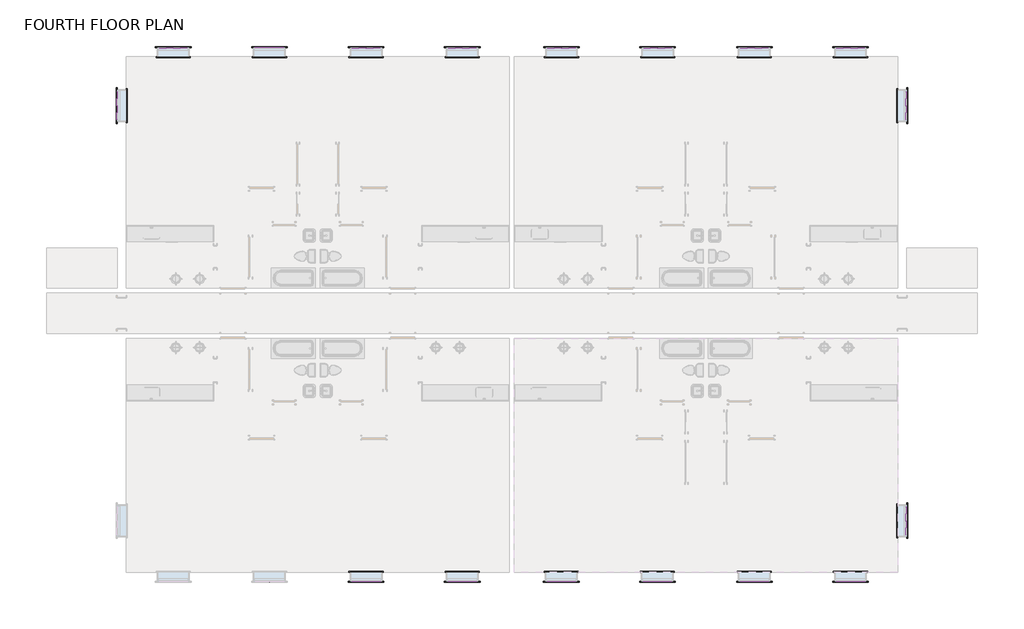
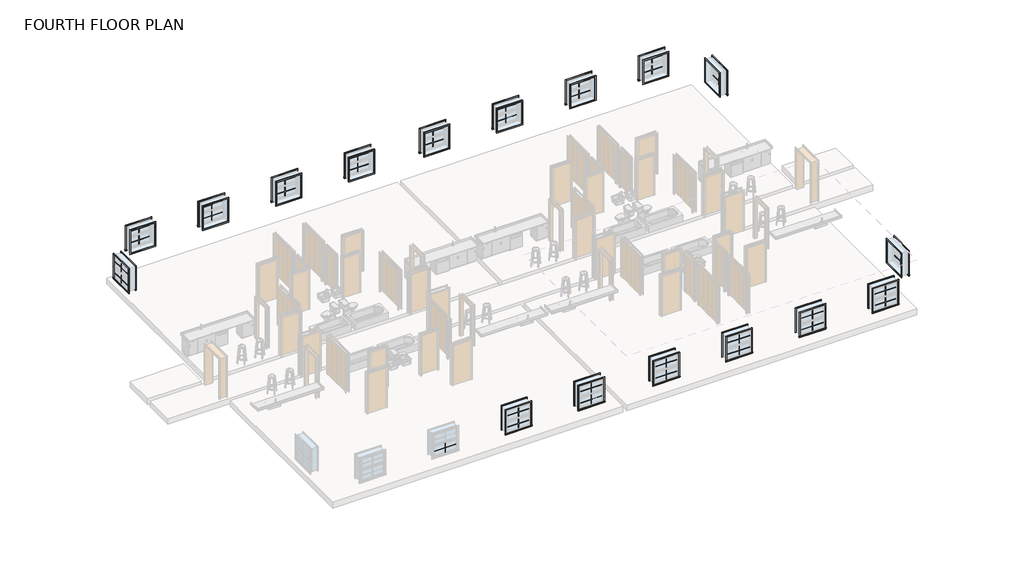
# One storey, part 3 of 3: 69 proxies.
"""IFC4 building model written with IfcOpenShell, lengths in millimetres."""

from ifc_helpers import new_model, si_unit, origin, place, context, project, spatial, transform, mapped, element, save
from components import muntin_pattern_2x2_muntin_pattern_2x2_c44f4804, muntin_pattern_2x2_muntin_pattern_2x2_05dfa543, muntin_pattern_2x2_muntin_pattern_2x2_770224b8, muntin_pattern_2x2_muntin_pattern_2x2_cf99dd86, trim_window_exterior_flat_with_sill_7cfdd449, trim_window_exterior_flat_with_sill_ac84ebb5, trim_window_interior_flat_picture_frame_f1e0b15b, trim_window_interior_flat_picture_frame_caf2db4f

model = new_model("IFC4")

# Units and contexts
model_context = context("Model", 3, world=origin())
ifc_project = project(units=[si_unit("LENGTHUNIT", "METRE", prefix="MILLI")], contexts=[model_context])

# Site, building, storey
site = spatial("IfcSite", under=ifc_project)
building = spatial("IfcBuilding", under=site)
storey = spatial("IfcBuildingStorey", under=building, Name="FOURTH FLOOR PLAN", Elevation=8534.4)

# Proxies
placement = place(None, origin())
muntin_pattern_2x2_muntin_pattern_2x2_shape = muntin_pattern_2x2_muntin_pattern_2x2_c44f4804(model_context)
element("IfcBuildingElementProxy", 1, Name="Muntin Pattern_2x2 : Muntin Pattern_2x2", ObjectType="Muntin Pattern_2x2 : Muntin Pattern_2x2", at=placement, inside=storey, context=model_context, shape_type="MappedRepresentation", body=[
    mapped(muntin_pattern_2x2_muntin_pattern_2x2_shape, transform((-5537.3665125, 13431.007194, 10128.25), x_axis=(0.0, 1.0, 0.0), y_axis=(-1.0, 0.0, 0.0), z_axis=(0.0, 0.0, 1.0))),
])
element("IfcBuildingElementProxy", 2, Name="Muntin Pattern_2x2 : Muntin Pattern_2x2", ObjectType="Muntin Pattern_2x2 : Muntin Pattern_2x2", at=placement, inside=storey, context=model_context, shape_type="MappedRepresentation", body=[
    mapped(muntin_pattern_2x2_muntin_pattern_2x2_shape, transform((-3399.0477625, 15644.6887881, 10128.25), x_axis=(1.0, 0.0, 0.0), y_axis=(0.0, 1.0, 0.0), z_axis=(0.0, 0.0, 1.0))),
])
element("IfcBuildingElementProxy", 3, Name="Muntin Pattern_2x2 : Muntin Pattern_2x2", ObjectType="Muntin Pattern_2x2 : Muntin Pattern_2x2", at=placement, inside=storey, context=model_context, shape_type="MappedRepresentation", body=[
    mapped(muntin_pattern_2x2_muntin_pattern_2x2_shape, transform((271.9647375, 15644.6887881, 10128.25), x_axis=(1.0, 0.0, 0.0), y_axis=(0.0, 1.0, 0.0), z_axis=(0.0, 0.0, 1.0))),
])
element("IfcBuildingElementProxy", 4, Name="Muntin Pattern_2x2 : Muntin Pattern_2x2", ObjectType="Muntin Pattern_2x2 : Muntin Pattern_2x2", at=placement, inside=storey, context=model_context, shape_type="MappedRepresentation", body=[
    mapped(muntin_pattern_2x2_muntin_pattern_2x2_shape, transform((7635.6647375, -4742.0612119, 10128.25), x_axis=(-1.0, 0.0, 0.0), y_axis=(0.0, -1.0, 0.0), z_axis=(0.0, 0.0, 1.0))),
])
element("IfcBuildingElementProxy", 5, Name="Muntin Pattern_2x2 : Muntin Pattern_2x2", ObjectType="Muntin Pattern_2x2 : Muntin Pattern_2x2", at=placement, inside=storey, context=model_context, shape_type="MappedRepresentation", body=[
    mapped(muntin_pattern_2x2_muntin_pattern_2x2_shape, transform((3964.6522375, -4742.0612119, 10128.25), x_axis=(-1.0, 0.0, 0.0), y_axis=(0.0, -1.0, 0.0), z_axis=(0.0, 0.0, 1.0))),
])
element("IfcBuildingElementProxy", 6, Name="Muntin Pattern_2x2 : Muntin Pattern_2x2", ObjectType="Muntin Pattern_2x2 : Muntin Pattern_2x2", at=placement, inside=storey, context=model_context, shape_type="MappedRepresentation", body=[
    mapped(muntin_pattern_2x2_muntin_pattern_2x2_shape, transform((24597.5834875, -2431.3796179, 10128.25), x_axis=(0.0, -1.0, 0.0), y_axis=(1.0, 0.0, 0.0), z_axis=(0.0, 0.0, 1.0))),
])
element("IfcBuildingElementProxy", 7, Name="Muntin Pattern_2x2 : Muntin Pattern_2x2", ObjectType="Muntin Pattern_2x2 : Muntin Pattern_2x2", at=placement, inside=storey, context=model_context, shape_type="MappedRepresentation", body=[
    mapped(muntin_pattern_2x2_muntin_pattern_2x2_shape, transform((22460.0647375, -4742.0612119, 10128.25), x_axis=(-1.0, 0.0, 0.0), y_axis=(0.0, -1.0, 0.0), z_axis=(0.0, 0.0, 1.0))),
])
element("IfcBuildingElementProxy", 8, Name="Muntin Pattern_2x2 : Muntin Pattern_2x2", ObjectType="Muntin Pattern_2x2 : Muntin Pattern_2x2", at=placement, inside=storey, context=model_context, shape_type="MappedRepresentation", body=[
    mapped(muntin_pattern_2x2_muntin_pattern_2x2_shape, transform((18789.0522375, -4742.0612119, 10128.25), x_axis=(-1.0, 0.0, 0.0), y_axis=(0.0, -1.0, 0.0), z_axis=(0.0, 0.0, 1.0))),
])
element("IfcBuildingElementProxy", 9, Name="Muntin Pattern_2x2 : Muntin Pattern_2x2", ObjectType="Muntin Pattern_2x2 : Muntin Pattern_2x2", at=placement, inside=storey, context=model_context, shape_type="MappedRepresentation", body=[
    mapped(muntin_pattern_2x2_muntin_pattern_2x2_shape, transform((11425.3522375, 15644.6887881, 10128.25), x_axis=(1.0, 0.0, 0.0), y_axis=(0.0, 1.0, 0.0), z_axis=(0.0, 0.0, 1.0))),
])
element("IfcBuildingElementProxy", 10, Name="Muntin Pattern_2x2 : Muntin Pattern_2x2", ObjectType="Muntin Pattern_2x2 : Muntin Pattern_2x2", at=placement, inside=storey, context=model_context, shape_type="MappedRepresentation", body=[
    mapped(muntin_pattern_2x2_muntin_pattern_2x2_shape, transform((15096.3647375, 15644.6887881, 10128.25), x_axis=(1.0, 0.0, 0.0), y_axis=(0.0, 1.0, 0.0), z_axis=(0.0, 0.0, 1.0))),
])
muntin_pattern_2x2_muntin_pattern_2x2_2_shape = muntin_pattern_2x2_muntin_pattern_2x2_05dfa543(model_context)
element("IfcBuildingElementProxy", 11, Name="Muntin Pattern_2x2 : Muntin Pattern_2x2", ObjectType="Muntin Pattern_2x2 : Muntin Pattern_2x2", at=placement, inside=storey, context=model_context, shape_type="MappedRepresentation", body=[
    mapped(muntin_pattern_2x2_muntin_pattern_2x2_2_shape, transform((-5537.3665125, 13431.007194, 9518.65), x_axis=(0.0, 1.0, 0.0), y_axis=(-1.0, 0.0, 0.0), z_axis=(0.0, 0.0, 1.0))),
])
element("IfcBuildingElementProxy", 12, Name="Muntin Pattern_2x2 : Muntin Pattern_2x2", ObjectType="Muntin Pattern_2x2 : Muntin Pattern_2x2", at=placement, inside=storey, context=model_context, shape_type="MappedRepresentation", body=[
    mapped(muntin_pattern_2x2_muntin_pattern_2x2_2_shape, transform((-3399.0477625, 15644.6887881, 9518.65), x_axis=(1.0, 0.0, 0.0), y_axis=(0.0, 1.0, 0.0), z_axis=(0.0, 0.0, 1.0))),
])
element("IfcBuildingElementProxy", 13, Name="Muntin Pattern_2x2 : Muntin Pattern_2x2", ObjectType="Muntin Pattern_2x2 : Muntin Pattern_2x2", at=placement, inside=storey, context=model_context, shape_type="MappedRepresentation", body=[
    mapped(muntin_pattern_2x2_muntin_pattern_2x2_2_shape, transform((271.9647375, 15644.6887881, 9518.65), x_axis=(1.0, 0.0, 0.0), y_axis=(0.0, 1.0, 0.0), z_axis=(0.0, 0.0, 1.0))),
])
element("IfcBuildingElementProxy", 14, Name="Muntin Pattern_2x2 : Muntin Pattern_2x2", ObjectType="Muntin Pattern_2x2 : Muntin Pattern_2x2", at=placement, inside=storey, context=model_context, shape_type="MappedRepresentation", body=[
    mapped(muntin_pattern_2x2_muntin_pattern_2x2_2_shape, transform((7635.6647375, -4742.0612119, 9518.65), x_axis=(-1.0, 0.0, 0.0), y_axis=(0.0, -1.0, 0.0), z_axis=(0.0, 0.0, 1.0))),
])
element("IfcBuildingElementProxy", 15, Name="Muntin Pattern_2x2 : Muntin Pattern_2x2", ObjectType="Muntin Pattern_2x2 : Muntin Pattern_2x2", at=placement, inside=storey, context=model_context, shape_type="MappedRepresentation", body=[
    mapped(muntin_pattern_2x2_muntin_pattern_2x2_2_shape, transform((3964.6522375, -4742.0612119, 9518.65), x_axis=(-1.0, 0.0, 0.0), y_axis=(0.0, -1.0, 0.0), z_axis=(0.0, 0.0, 1.0))),
])
element("IfcBuildingElementProxy", 16, Name="Muntin Pattern_2x2 : Muntin Pattern_2x2", ObjectType="Muntin Pattern_2x2 : Muntin Pattern_2x2", at=placement, inside=storey, context=model_context, shape_type="MappedRepresentation", body=[
    mapped(muntin_pattern_2x2_muntin_pattern_2x2_2_shape, transform((24597.5834875, -2431.3796179, 9518.65), x_axis=(0.0, -1.0, 0.0), y_axis=(1.0, 0.0, 0.0), z_axis=(0.0, 0.0, 1.0))),
])
element("IfcBuildingElementProxy", 17, Name="Muntin Pattern_2x2 : Muntin Pattern_2x2", ObjectType="Muntin Pattern_2x2 : Muntin Pattern_2x2", at=placement, inside=storey, context=model_context, shape_type="MappedRepresentation", body=[
    mapped(muntin_pattern_2x2_muntin_pattern_2x2_2_shape, transform((22460.0647375, -4742.0612119, 9518.65), x_axis=(-1.0, 0.0, 0.0), y_axis=(0.0, -1.0, 0.0), z_axis=(0.0, 0.0, 1.0))),
])
element("IfcBuildingElementProxy", 18, Name="Muntin Pattern_2x2 : Muntin Pattern_2x2", ObjectType="Muntin Pattern_2x2 : Muntin Pattern_2x2", at=placement, inside=storey, context=model_context, shape_type="MappedRepresentation", body=[
    mapped(muntin_pattern_2x2_muntin_pattern_2x2_2_shape, transform((18789.0522375, -4742.0612119, 9518.65), x_axis=(-1.0, 0.0, 0.0), y_axis=(0.0, -1.0, 0.0), z_axis=(0.0, 0.0, 1.0))),
])
element("IfcBuildingElementProxy", 19, Name="Muntin Pattern_2x2 : Muntin Pattern_2x2", ObjectType="Muntin Pattern_2x2 : Muntin Pattern_2x2", at=placement, inside=storey, context=model_context, shape_type="MappedRepresentation", body=[
    mapped(muntin_pattern_2x2_muntin_pattern_2x2_2_shape, transform((11425.3522375, 15644.6887881, 9518.65), x_axis=(1.0, 0.0, 0.0), y_axis=(0.0, 1.0, 0.0), z_axis=(0.0, 0.0, 1.0))),
])
element("IfcBuildingElementProxy", 20, Name="Muntin Pattern_2x2 : Muntin Pattern_2x2", ObjectType="Muntin Pattern_2x2 : Muntin Pattern_2x2", at=placement, inside=storey, context=model_context, shape_type="MappedRepresentation", body=[
    mapped(muntin_pattern_2x2_muntin_pattern_2x2_2_shape, transform((15096.3647375, 15644.6887881, 9518.65), x_axis=(1.0, 0.0, 0.0), y_axis=(0.0, 1.0, 0.0), z_axis=(0.0, 0.0, 1.0))),
])
muntin_pattern_2x2_muntin_pattern_2x2_3_shape = muntin_pattern_2x2_muntin_pattern_2x2_770224b8(model_context)
element("IfcBuildingElementProxy", 21, Name="Muntin Pattern_2x2 : Muntin Pattern_2x2", ObjectType="Muntin Pattern_2x2 : Muntin Pattern_2x2", at=placement, inside=storey, context=model_context, shape_type="MappedRepresentation", body=[
    mapped(muntin_pattern_2x2_muntin_pattern_2x2_3_shape, transform((7635.6647375, 15644.6887881, 10128.25), x_axis=(-1.0, 0.0, 0.0), y_axis=(0.0, -1.0, 0.0), z_axis=(0.0, 0.0, 1.0))),
])
element("IfcBuildingElementProxy", 22, Name="Muntin Pattern_2x2 : Muntin Pattern_2x2", ObjectType="Muntin Pattern_2x2 : Muntin Pattern_2x2", at=placement, inside=storey, context=model_context, shape_type="MappedRepresentation", body=[
    mapped(muntin_pattern_2x2_muntin_pattern_2x2_3_shape, transform((3964.6522375, 15644.6887881, 10128.25), x_axis=(-1.0, 0.0, 0.0), y_axis=(0.0, -1.0, 0.0), z_axis=(0.0, 0.0, 1.0))),
])
element("IfcBuildingElementProxy", 23, Name="Muntin Pattern_2x2 : Muntin Pattern_2x2", ObjectType="Muntin Pattern_2x2 : Muntin Pattern_2x2", at=placement, inside=storey, context=model_context, shape_type="MappedRepresentation", body=[
    mapped(muntin_pattern_2x2_muntin_pattern_2x2_3_shape, transform((24597.5834875, 13431.007194, 10128.25), x_axis=(0.0, 1.0, 0.0), y_axis=(-1.0, 0.0, 0.0), z_axis=(0.0, 0.0, 1.0))),
])
element("IfcBuildingElementProxy", 24, Name="Muntin Pattern_2x2 : Muntin Pattern_2x2", ObjectType="Muntin Pattern_2x2 : Muntin Pattern_2x2", at=placement, inside=storey, context=model_context, shape_type="MappedRepresentation", body=[
    mapped(muntin_pattern_2x2_muntin_pattern_2x2_3_shape, transform((22460.0647375, 15644.6887881, 10128.25), x_axis=(-1.0, 0.0, 0.0), y_axis=(0.0, -1.0, 0.0), z_axis=(0.0, 0.0, 1.0))),
])
element("IfcBuildingElementProxy", 25, Name="Muntin Pattern_2x2 : Muntin Pattern_2x2", ObjectType="Muntin Pattern_2x2 : Muntin Pattern_2x2", at=placement, inside=storey, context=model_context, shape_type="MappedRepresentation", body=[
    mapped(muntin_pattern_2x2_muntin_pattern_2x2_3_shape, transform((18789.0522375, 15644.6887881, 10128.25), x_axis=(-1.0, 0.0, 0.0), y_axis=(0.0, -1.0, 0.0), z_axis=(0.0, 0.0, 1.0))),
])
element("IfcBuildingElementProxy", 26, Name="Muntin Pattern_2x2 : Muntin Pattern_2x2", ObjectType="Muntin Pattern_2x2 : Muntin Pattern_2x2", at=placement, inside=storey, context=model_context, shape_type="MappedRepresentation", body=[
    mapped(muntin_pattern_2x2_muntin_pattern_2x2_3_shape, transform((11414.5522375, -4742.0612119, 10128.25), x_axis=(1.0, 0.0, 0.0), y_axis=(0.0, 1.0, 0.0), z_axis=(0.0, 0.0, 1.0))),
])
element("IfcBuildingElementProxy", 27, Name="Muntin Pattern_2x2 : Muntin Pattern_2x2", ObjectType="Muntin Pattern_2x2 : Muntin Pattern_2x2", at=placement, inside=storey, context=model_context, shape_type="MappedRepresentation", body=[
    mapped(muntin_pattern_2x2_muntin_pattern_2x2_3_shape, transform((15085.5647375, -4742.0612119, 10128.25), x_axis=(1.0, 0.0, 0.0), y_axis=(0.0, 1.0, 0.0), z_axis=(0.0, 0.0, 1.0))),
])
muntin_pattern_2x2_muntin_pattern_2x2_4_shape = muntin_pattern_2x2_muntin_pattern_2x2_cf99dd86(model_context)
element("IfcBuildingElementProxy", 28, Name="Muntin Pattern_2x2 : Muntin Pattern_2x2", ObjectType="Muntin Pattern_2x2 : Muntin Pattern_2x2", at=placement, inside=storey, context=model_context, shape_type="MappedRepresentation", body=[
    mapped(muntin_pattern_2x2_muntin_pattern_2x2_4_shape, transform((7635.6647375, 15644.6887881, 9518.65), x_axis=(-1.0, 0.0, 0.0), y_axis=(0.0, -1.0, 0.0), z_axis=(0.0, 0.0, 1.0))),
])
element("IfcBuildingElementProxy", 29, Name="Muntin Pattern_2x2 : Muntin Pattern_2x2", ObjectType="Muntin Pattern_2x2 : Muntin Pattern_2x2", at=placement, inside=storey, context=model_context, shape_type="MappedRepresentation", body=[
    mapped(muntin_pattern_2x2_muntin_pattern_2x2_4_shape, transform((3964.6522375, 15644.6887881, 9518.65), x_axis=(-1.0, 0.0, 0.0), y_axis=(0.0, -1.0, 0.0), z_axis=(0.0, 0.0, 1.0))),
])
element("IfcBuildingElementProxy", 30, Name="Muntin Pattern_2x2 : Muntin Pattern_2x2", ObjectType="Muntin Pattern_2x2 : Muntin Pattern_2x2", at=placement, inside=storey, context=model_context, shape_type="MappedRepresentation", body=[
    mapped(muntin_pattern_2x2_muntin_pattern_2x2_4_shape, transform((24597.5834875, 13431.007194, 9518.65), x_axis=(0.0, 1.0, 0.0), y_axis=(-1.0, 0.0, 0.0), z_axis=(0.0, 0.0, 1.0))),
])
element("IfcBuildingElementProxy", 31, Name="Muntin Pattern_2x2 : Muntin Pattern_2x2", ObjectType="Muntin Pattern_2x2 : Muntin Pattern_2x2", at=placement, inside=storey, context=model_context, shape_type="MappedRepresentation", body=[
    mapped(muntin_pattern_2x2_muntin_pattern_2x2_4_shape, transform((22460.0647375, 15644.6887881, 9518.65), x_axis=(-1.0, 0.0, 0.0), y_axis=(0.0, -1.0, 0.0), z_axis=(0.0, 0.0, 1.0))),
])
element("IfcBuildingElementProxy", 32, Name="Muntin Pattern_2x2 : Muntin Pattern_2x2", ObjectType="Muntin Pattern_2x2 : Muntin Pattern_2x2", at=placement, inside=storey, context=model_context, shape_type="MappedRepresentation", body=[
    mapped(muntin_pattern_2x2_muntin_pattern_2x2_4_shape, transform((18789.0522375, 15644.6887881, 9518.65), x_axis=(-1.0, 0.0, 0.0), y_axis=(0.0, -1.0, 0.0), z_axis=(0.0, 0.0, 1.0))),
])
element("IfcBuildingElementProxy", 33, Name="Muntin Pattern_2x2 : Muntin Pattern_2x2", ObjectType="Muntin Pattern_2x2 : Muntin Pattern_2x2", at=placement, inside=storey, context=model_context, shape_type="MappedRepresentation", body=[
    mapped(muntin_pattern_2x2_muntin_pattern_2x2_4_shape, transform((271.9647375, -4742.0612119, 9518.65), x_axis=(1.0, 0.0, 0.0), y_axis=(0.0, 1.0, 0.0), z_axis=(0.0, 0.0, 1.0))),
])
element("IfcBuildingElementProxy", 34, Name="Muntin Pattern_2x2 : Muntin Pattern_2x2", ObjectType="Muntin Pattern_2x2 : Muntin Pattern_2x2", at=placement, inside=storey, context=model_context, shape_type="MappedRepresentation", body=[
    mapped(muntin_pattern_2x2_muntin_pattern_2x2_4_shape, transform((11414.5522375, -4742.0612119, 9518.65), x_axis=(1.0, 0.0, 0.0), y_axis=(0.0, 1.0, 0.0), z_axis=(0.0, 0.0, 1.0))),
])
element("IfcBuildingElementProxy", 35, Name="Muntin Pattern_2x2 : Muntin Pattern_2x2", ObjectType="Muntin Pattern_2x2 : Muntin Pattern_2x2", at=placement, inside=storey, context=model_context, shape_type="MappedRepresentation", body=[
    mapped(muntin_pattern_2x2_muntin_pattern_2x2_4_shape, transform((15085.5647375, -4742.0612119, 9518.65), x_axis=(1.0, 0.0, 0.0), y_axis=(0.0, 1.0, 0.0), z_axis=(0.0, 0.0, 1.0))),
])
trim_window_exterior_flat_with_sill_shape = trim_window_exterior_flat_with_sill_7cfdd449(model_context)
element("IfcBuildingElementProxy", 36, Name="Trim-Window-Exterior-Flat : with Sill", ObjectType="Trim-Window-Exterior-Flat : with Sill", at=placement, inside=storey, context=model_context, shape_type="MappedRepresentation", body=[
    mapped(trim_window_exterior_flat_with_sill_shape, transform((-5546.8915125, 13431.007194, 10668.0), x_axis=(0.0, -1.0, 0.0), y_axis=(0.0, 0.0, 1.0), z_axis=(-1.0, 0.0, 0.0))),
])
element("IfcBuildingElementProxy", 37, Name="Trim-Window-Exterior-Flat : with Sill", ObjectType="Trim-Window-Exterior-Flat : with Sill", at=placement, inside=storey, context=model_context, shape_type="MappedRepresentation", body=[
    mapped(trim_window_exterior_flat_with_sill_shape, transform((-3399.0477625, 15654.2137881, 10668.0), x_axis=(-1.0, 0.0, 0.0), y_axis=(0.0, 0.0, 1.0), z_axis=(0.0, 1.0, 0.0))),
])
element("IfcBuildingElementProxy", 38, Name="Trim-Window-Exterior-Flat : with Sill", ObjectType="Trim-Window-Exterior-Flat : with Sill", at=placement, inside=storey, context=model_context, shape_type="MappedRepresentation", body=[
    mapped(trim_window_exterior_flat_with_sill_shape, transform((271.9647375, 15654.2137881, 10668.0), x_axis=(-1.0, 0.0, 0.0), y_axis=(0.0, 0.0, 1.0), z_axis=(0.0, 1.0, 0.0))),
])
element("IfcBuildingElementProxy", 39, Name="Trim-Window-Exterior-Flat : with Sill", ObjectType="Trim-Window-Exterior-Flat : with Sill", at=placement, inside=storey, context=model_context, shape_type="MappedRepresentation", body=[
    mapped(trim_window_exterior_flat_with_sill_shape, transform((7635.6647375, -4751.5862119, 10668.0), x_axis=(1.0, 0.0, 0.0), y_axis=(0.0, 0.0, 1.0), z_axis=(0.0, -1.0, 0.0))),
])
element("IfcBuildingElementProxy", 40, Name="Trim-Window-Exterior-Flat : with Sill", ObjectType="Trim-Window-Exterior-Flat : with Sill", at=placement, inside=storey, context=model_context, shape_type="MappedRepresentation", body=[
    mapped(trim_window_exterior_flat_with_sill_shape, transform((3964.6522375, -4751.5862119, 10668.0), x_axis=(1.0, 0.0, 0.0), y_axis=(0.0, 0.0, 1.0), z_axis=(0.0, -1.0, 0.0))),
])
element("IfcBuildingElementProxy", 41, Name="Trim-Window-Exterior-Flat : with Sill", ObjectType="Trim-Window-Exterior-Flat : with Sill", at=placement, inside=storey, context=model_context, shape_type="MappedRepresentation", body=[
    mapped(trim_window_exterior_flat_with_sill_shape, transform((24607.1084875, -2431.3796179, 10668.0), x_axis=(0.0, 1.0, 0.0), y_axis=(0.0, 0.0, 1.0), z_axis=(1.0, 0.0, 0.0))),
])
element("IfcBuildingElementProxy", 42, Name="Trim-Window-Exterior-Flat : with Sill", ObjectType="Trim-Window-Exterior-Flat : with Sill", at=placement, inside=storey, context=model_context, shape_type="MappedRepresentation", body=[
    mapped(trim_window_exterior_flat_with_sill_shape, transform((22460.0647375, -4751.5862119, 10668.0), x_axis=(1.0, 0.0, 0.0), y_axis=(0.0, 0.0, 1.0), z_axis=(0.0, -1.0, 0.0))),
])
element("IfcBuildingElementProxy", 43, Name="Trim-Window-Exterior-Flat : with Sill", ObjectType="Trim-Window-Exterior-Flat : with Sill", at=placement, inside=storey, context=model_context, shape_type="MappedRepresentation", body=[
    mapped(trim_window_exterior_flat_with_sill_shape, transform((18789.0522375, -4751.5862119, 10668.0), x_axis=(1.0, 0.0, 0.0), y_axis=(0.0, 0.0, 1.0), z_axis=(0.0, -1.0, 0.0))),
])
element("IfcBuildingElementProxy", 44, Name="Trim-Window-Exterior-Flat : with Sill", ObjectType="Trim-Window-Exterior-Flat : with Sill", at=placement, inside=storey, context=model_context, shape_type="MappedRepresentation", body=[
    mapped(trim_window_exterior_flat_with_sill_shape, transform((11425.3522375, 15654.2137881, 10668.0), x_axis=(-1.0, 0.0, 0.0), y_axis=(0.0, 0.0, 1.0), z_axis=(0.0, 1.0, 0.0))),
])
element("IfcBuildingElementProxy", 45, Name="Trim-Window-Exterior-Flat : with Sill", ObjectType="Trim-Window-Exterior-Flat : with Sill", at=placement, inside=storey, context=model_context, shape_type="MappedRepresentation", body=[
    mapped(trim_window_exterior_flat_with_sill_shape, transform((15096.3647375, 15654.2137881, 10668.0), x_axis=(-1.0, 0.0, 0.0), y_axis=(0.0, 0.0, 1.0), z_axis=(0.0, 1.0, 0.0))),
])
trim_window_exterior_flat_with_sill_2_shape = trim_window_exterior_flat_with_sill_ac84ebb5(model_context)
element("IfcBuildingElementProxy", 46, Name="Trim-Window-Exterior-Flat : with Sill", ObjectType="Trim-Window-Exterior-Flat : with Sill", at=placement, inside=storey, context=model_context, shape_type="MappedRepresentation", body=[
    mapped(trim_window_exterior_flat_with_sill_2_shape, transform((7635.6647375, 15654.2137881, 10668.0), x_axis=(1.0, 0.0, 0.0), y_axis=(0.0, 0.0, -1.0), z_axis=(0.0, 1.0, 0.0))),
])
element("IfcBuildingElementProxy", 47, Name="Trim-Window-Exterior-Flat : with Sill", ObjectType="Trim-Window-Exterior-Flat : with Sill", at=placement, inside=storey, context=model_context, shape_type="MappedRepresentation", body=[
    mapped(trim_window_exterior_flat_with_sill_2_shape, transform((3964.6522375, 15654.2137881, 10668.0), x_axis=(1.0, 0.0, 0.0), y_axis=(0.0, 0.0, -1.0), z_axis=(0.0, 1.0, 0.0))),
])
element("IfcBuildingElementProxy", 48, Name="Trim-Window-Exterior-Flat : with Sill", ObjectType="Trim-Window-Exterior-Flat : with Sill", at=placement, inside=storey, context=model_context, shape_type="MappedRepresentation", body=[
    mapped(trim_window_exterior_flat_with_sill_2_shape, transform((24607.1084875, 13431.007194, 10668.0), x_axis=(0.0, -1.0, 0.0), y_axis=(0.0, 0.0, -1.0), z_axis=(1.0, 0.0, 0.0))),
])
element("IfcBuildingElementProxy", 49, Name="Trim-Window-Exterior-Flat : with Sill", ObjectType="Trim-Window-Exterior-Flat : with Sill", at=placement, inside=storey, context=model_context, shape_type="MappedRepresentation", body=[
    mapped(trim_window_exterior_flat_with_sill_2_shape, transform((22460.0647375, 15654.2137881, 10668.0), x_axis=(1.0, 0.0, 0.0), y_axis=(0.0, 0.0, -1.0), z_axis=(0.0, 1.0, 0.0))),
])
element("IfcBuildingElementProxy", 50, Name="Trim-Window-Exterior-Flat : with Sill", ObjectType="Trim-Window-Exterior-Flat : with Sill", at=placement, inside=storey, context=model_context, shape_type="MappedRepresentation", body=[
    mapped(trim_window_exterior_flat_with_sill_2_shape, transform((18789.0522375, 15654.2137881, 10668.0), x_axis=(1.0, 0.0, 0.0), y_axis=(0.0, 0.0, -1.0), z_axis=(0.0, 1.0, 0.0))),
])
element("IfcBuildingElementProxy", 51, Name="Trim-Window-Exterior-Flat : with Sill", ObjectType="Trim-Window-Exterior-Flat : with Sill", at=placement, inside=storey, context=model_context, shape_type="MappedRepresentation", body=[
    mapped(trim_window_exterior_flat_with_sill_2_shape, transform((11414.5522375, -4751.5862119, 10668.0), x_axis=(-1.0, 0.0, 0.0), y_axis=(0.0, 0.0, -1.0), z_axis=(0.0, -1.0, 0.0))),
])
element("IfcBuildingElementProxy", 52, Name="Trim-Window-Exterior-Flat : with Sill", ObjectType="Trim-Window-Exterior-Flat : with Sill", at=placement, inside=storey, context=model_context, shape_type="MappedRepresentation", body=[
    mapped(trim_window_exterior_flat_with_sill_2_shape, transform((15085.5647375, -4751.5862119, 10668.0), x_axis=(-1.0, 0.0, 0.0), y_axis=(0.0, 0.0, -1.0), z_axis=(0.0, -1.0, 0.0))),
])
trim_window_interior_flat_picture_frame_shape = trim_window_interior_flat_picture_frame_f1e0b15b(model_context)
element("IfcBuildingElementProxy", 53, Name="Trim-Window-Interior-Flat : Picture Frame", ObjectType="Trim-Window-Interior-Flat : Picture Frame", at=placement, inside=storey, context=model_context, shape_type="MappedRepresentation", body=[
    mapped(trim_window_interior_flat_picture_frame_shape, transform((-5196.8915125, 13431.007194, 10668.0), x_axis=(0.0, 1.0, 0.0), y_axis=(0.0, 0.0, 1.0), z_axis=(1.0, 0.0, 0.0))),
])
element("IfcBuildingElementProxy", 54, Name="Trim-Window-Interior-Flat : Picture Frame", ObjectType="Trim-Window-Interior-Flat : Picture Frame", at=placement, inside=storey, context=model_context, shape_type="MappedRepresentation", body=[
    mapped(trim_window_interior_flat_picture_frame_shape, transform((-3399.0477625, 15304.2137881, 10668.0), x_axis=(1.0, 0.0, 0.0), y_axis=(0.0, 0.0, 1.0), z_axis=(0.0, -1.0, 0.0))),
])
element("IfcBuildingElementProxy", 55, Name="Trim-Window-Interior-Flat : Picture Frame", ObjectType="Trim-Window-Interior-Flat : Picture Frame", at=placement, inside=storey, context=model_context, shape_type="MappedRepresentation", body=[
    mapped(trim_window_interior_flat_picture_frame_shape, transform((271.9647375, 15304.2137881, 10668.0), x_axis=(1.0, 0.0, 0.0), y_axis=(0.0, 0.0, 1.0), z_axis=(0.0, -1.0, 0.0))),
])
element("IfcBuildingElementProxy", 56, Name="Trim-Window-Interior-Flat : Picture Frame", ObjectType="Trim-Window-Interior-Flat : Picture Frame", at=placement, inside=storey, context=model_context, shape_type="MappedRepresentation", body=[
    mapped(trim_window_interior_flat_picture_frame_shape, transform((7635.6647375, -4401.5862119, 10668.0), x_axis=(-1.0, 0.0, 0.0), y_axis=(0.0, 0.0, 1.0), z_axis=(0.0, 1.0, 0.0))),
])
element("IfcBuildingElementProxy", 57, Name="Trim-Window-Interior-Flat : Picture Frame", ObjectType="Trim-Window-Interior-Flat : Picture Frame", at=placement, inside=storey, context=model_context, shape_type="MappedRepresentation", body=[
    mapped(trim_window_interior_flat_picture_frame_shape, transform((3964.6522375, -4401.5862119, 10668.0), x_axis=(-1.0, 0.0, 0.0), y_axis=(0.0, 0.0, 1.0), z_axis=(0.0, 1.0, 0.0))),
])
element("IfcBuildingElementProxy", 58, Name="Trim-Window-Interior-Flat : Picture Frame", ObjectType="Trim-Window-Interior-Flat : Picture Frame", at=placement, inside=storey, context=model_context, shape_type="MappedRepresentation", body=[
    mapped(trim_window_interior_flat_picture_frame_shape, transform((24257.1084875, -2431.3796179, 10668.0), x_axis=(0.0, -1.0, 0.0), y_axis=(0.0, 0.0, 1.0), z_axis=(-1.0, 0.0, 0.0))),
])
element("IfcBuildingElementProxy", 59, Name="Trim-Window-Interior-Flat : Picture Frame", ObjectType="Trim-Window-Interior-Flat : Picture Frame", at=placement, inside=storey, context=model_context, shape_type="MappedRepresentation", body=[
    mapped(trim_window_interior_flat_picture_frame_shape, transform((22460.0647375, -4401.5862119, 10668.0), x_axis=(-1.0, 0.0, 0.0), y_axis=(0.0, 0.0, 1.0), z_axis=(0.0, 1.0, 0.0))),
])
element("IfcBuildingElementProxy", 60, Name="Trim-Window-Interior-Flat : Picture Frame", ObjectType="Trim-Window-Interior-Flat : Picture Frame", at=placement, inside=storey, context=model_context, shape_type="MappedRepresentation", body=[
    mapped(trim_window_interior_flat_picture_frame_shape, transform((18789.0522375, -4401.5862119, 10668.0), x_axis=(-1.0, 0.0, 0.0), y_axis=(0.0, 0.0, 1.0), z_axis=(0.0, 1.0, 0.0))),
])
element("IfcBuildingElementProxy", 61, Name="Trim-Window-Interior-Flat : Picture Frame", ObjectType="Trim-Window-Interior-Flat : Picture Frame", at=placement, inside=storey, context=model_context, shape_type="MappedRepresentation", body=[
    mapped(trim_window_interior_flat_picture_frame_shape, transform((11425.3522375, 15304.2137881, 10668.0), x_axis=(1.0, 0.0, 0.0), y_axis=(0.0, 0.0, 1.0), z_axis=(0.0, -1.0, 0.0))),
])
element("IfcBuildingElementProxy", 62, Name="Trim-Window-Interior-Flat : Picture Frame", ObjectType="Trim-Window-Interior-Flat : Picture Frame", at=placement, inside=storey, context=model_context, shape_type="MappedRepresentation", body=[
    mapped(trim_window_interior_flat_picture_frame_shape, transform((15096.3647375, 15304.2137881, 10668.0), x_axis=(1.0, 0.0, 0.0), y_axis=(0.0, 0.0, 1.0), z_axis=(0.0, -1.0, 0.0))),
])
trim_window_interior_flat_picture_frame_2_shape = trim_window_interior_flat_picture_frame_caf2db4f(model_context)
element("IfcBuildingElementProxy", 63, Name="Trim-Window-Interior-Flat : Picture Frame", ObjectType="Trim-Window-Interior-Flat : Picture Frame", at=placement, inside=storey, context=model_context, shape_type="MappedRepresentation", body=[
    mapped(trim_window_interior_flat_picture_frame_2_shape, transform((7635.6647375, 15304.2137881, 10668.0), x_axis=(-1.0, 0.0, 0.0), y_axis=(0.0, 0.0, -1.0), z_axis=(0.0, -1.0, 0.0))),
])
element("IfcBuildingElementProxy", 64, Name="Trim-Window-Interior-Flat : Picture Frame", ObjectType="Trim-Window-Interior-Flat : Picture Frame", at=placement, inside=storey, context=model_context, shape_type="MappedRepresentation", body=[
    mapped(trim_window_interior_flat_picture_frame_2_shape, transform((3964.6522375, 15304.2137881, 10668.0), x_axis=(-1.0, 0.0, 0.0), y_axis=(0.0, 0.0, -1.0), z_axis=(0.0, -1.0, 0.0))),
])
element("IfcBuildingElementProxy", 65, Name="Trim-Window-Interior-Flat : Picture Frame", ObjectType="Trim-Window-Interior-Flat : Picture Frame", at=placement, inside=storey, context=model_context, shape_type="MappedRepresentation", body=[
    mapped(trim_window_interior_flat_picture_frame_2_shape, transform((24257.1084875, 13431.007194, 10668.0), x_axis=(0.0, 1.0, 0.0), y_axis=(0.0, 0.0, -1.0), z_axis=(-1.0, 0.0, 0.0))),
])
element("IfcBuildingElementProxy", 66, Name="Trim-Window-Interior-Flat : Picture Frame", ObjectType="Trim-Window-Interior-Flat : Picture Frame", at=placement, inside=storey, context=model_context, shape_type="MappedRepresentation", body=[
    mapped(trim_window_interior_flat_picture_frame_2_shape, transform((22460.0647375, 15304.2137881, 10668.0), x_axis=(-1.0, 0.0, 0.0), y_axis=(0.0, 0.0, -1.0), z_axis=(0.0, -1.0, 0.0))),
])
element("IfcBuildingElementProxy", 67, Name="Trim-Window-Interior-Flat : Picture Frame", ObjectType="Trim-Window-Interior-Flat : Picture Frame", at=placement, inside=storey, context=model_context, shape_type="MappedRepresentation", body=[
    mapped(trim_window_interior_flat_picture_frame_2_shape, transform((18789.0522375, 15304.2137881, 10668.0), x_axis=(-1.0, 0.0, 0.0), y_axis=(0.0, 0.0, -1.0), z_axis=(0.0, -1.0, 0.0))),
])
element("IfcBuildingElementProxy", 68, Name="Trim-Window-Interior-Flat : Picture Frame", ObjectType="Trim-Window-Interior-Flat : Picture Frame", at=placement, inside=storey, context=model_context, shape_type="MappedRepresentation", body=[
    mapped(trim_window_interior_flat_picture_frame_2_shape, transform((11414.5522375, -4401.5862119, 10668.0), x_axis=(1.0, 0.0, 0.0), y_axis=(0.0, 0.0, -1.0), z_axis=(0.0, 1.0, 0.0))),
])
element("IfcBuildingElementProxy", 69, Name="Trim-Window-Interior-Flat : Picture Frame", ObjectType="Trim-Window-Interior-Flat : Picture Frame", at=placement, inside=storey, context=model_context, shape_type="MappedRepresentation", body=[
    mapped(trim_window_interior_flat_picture_frame_2_shape, transform((15085.5647375, -4401.5862119, 10668.0), x_axis=(1.0, 0.0, 0.0), y_axis=(0.0, 0.0, -1.0), z_axis=(0.0, 1.0, 0.0))),
])

save(model, "model.ifc")
